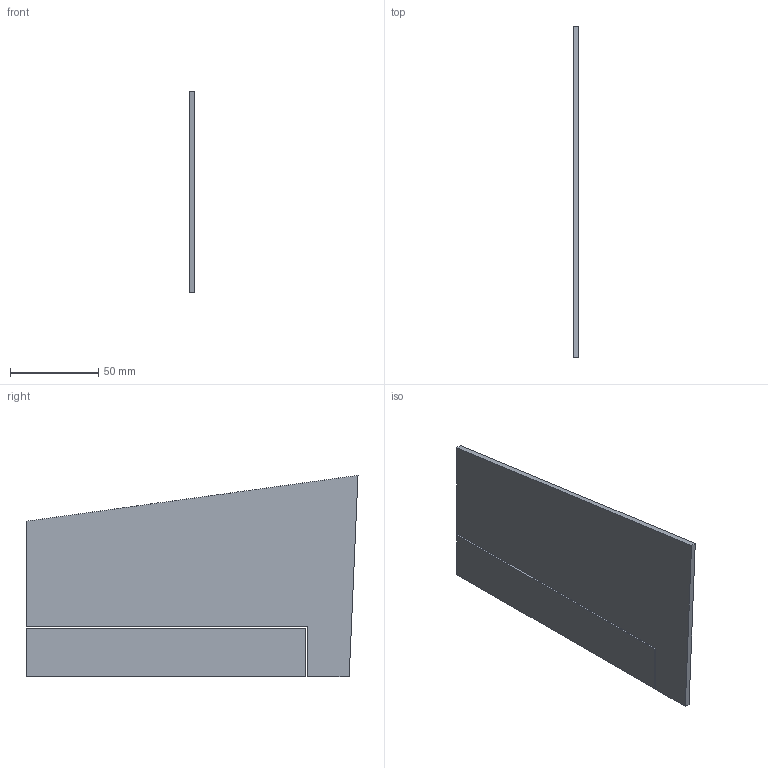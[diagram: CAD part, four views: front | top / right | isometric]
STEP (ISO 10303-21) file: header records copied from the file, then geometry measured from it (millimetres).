
FILE_DESCRIPTION(/* description */ (''),/* implementation_level */ '2;1');
FILE_NAME(/* name */ 'Vertical Stabilizer v16.step',/* time_stamp */ '2023-09-02T21:56:37+03:00',/* author */ (''),/* organization */ (''),/* preprocessor_version */ 'ST-DEVELOPER v20',/* originating_system */ 'Autodesk Translation Framework v12.9.0.99',/* authorisation */ '');
FILE_SCHEMA (('AUTOMOTIVE_DESIGN { 1 0 10303 214 3 1 1 }'));
Length unit declared in the file: millimetre
Products named in the file (1): Vertical Stabilizer
Bounding box: 3 x 188 x 114 mm (x, y, z)
Volume: 55552.5 mm3; surface area: 39874.5 mm2
Topology: 2 solids, 2 shells, 14 faces, 30 edges, 20 vertices
Faces by surface type: plane 14
Entity records: 406 total; most frequent: CARTESIAN_POINT 65, ORIENTED_EDGE 60, DIRECTION 60, LINE 30, VECTOR 30, EDGE_CURVE 30, VERTEX_POINT 20, AXIS2_PLACEMENT_3D 15
